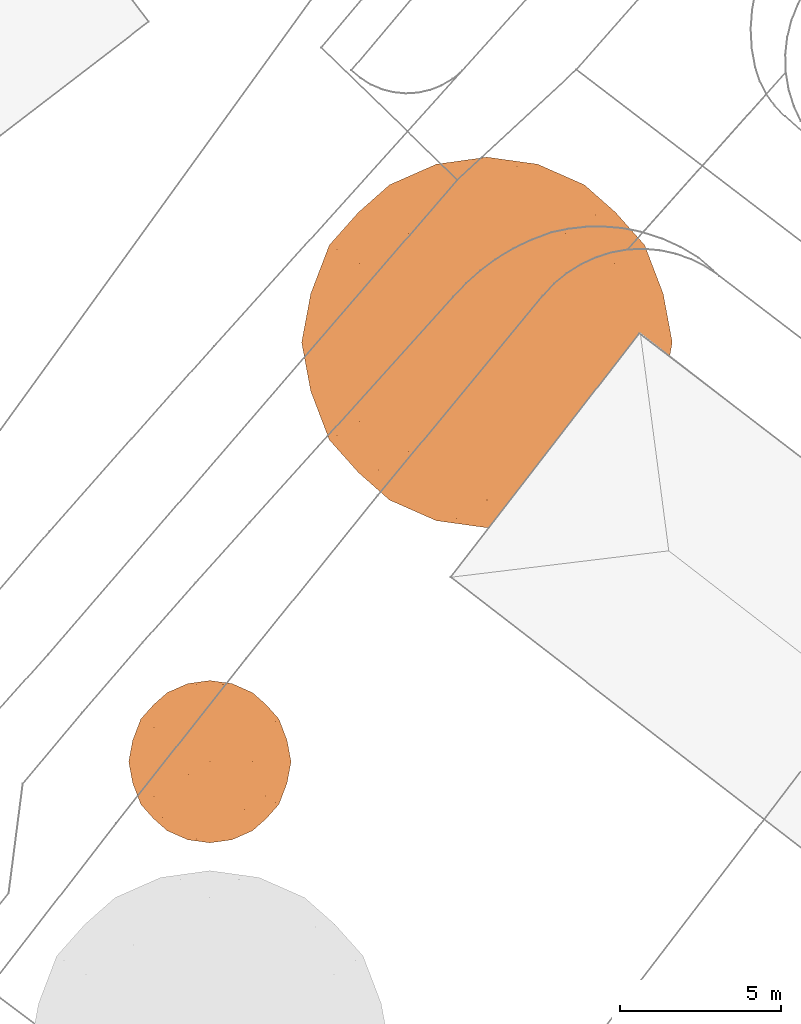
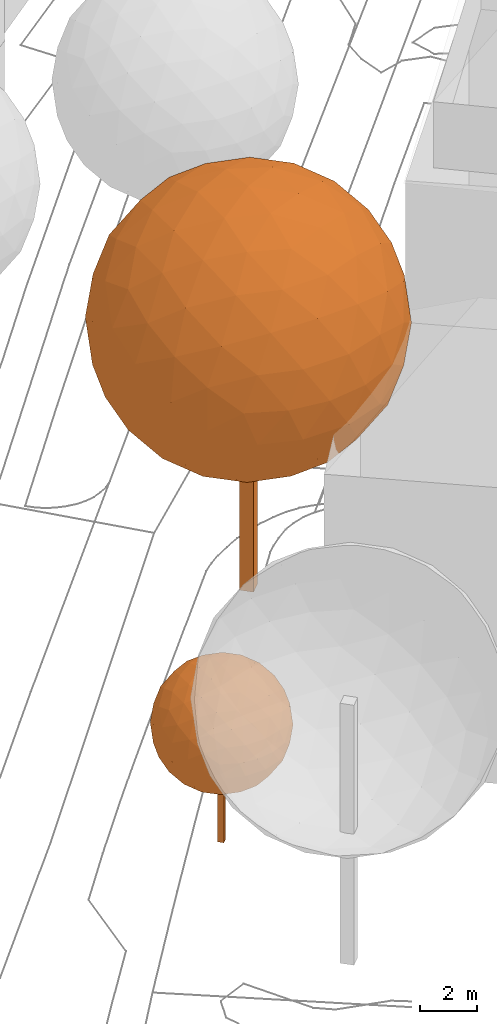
# Not in any storey, part 273 of 477: 2 geographic elements.
"""IFC4 model written with IfcOpenShell, lengths in metres."""

from ifc_helpers import new_model, si_unit, frame, origin_with_axes, place, context, subcontext, project, spatial, polygons, element, save


model = new_model("IFC4")

# Units and contexts
model_context = context("Model", 3, precision=1e-05, world=origin_with_axes())
body_context = subcontext(model_context, "Body", "Model", "MODEL_VIEW")
ifc_project = project(units=[si_unit("AREAUNIT", "SQUARE_METRE"), si_unit("LENGTHUNIT", "METRE")], contexts=[model_context])

# Sites
site_1_placement = place(None, origin_with_axes())
site_1 = spatial("IfcSite", under=ifc_project, at=site_1_placement, Name="Topoexport Site")
site_2_placement = place(site_1_placement, origin_with_axes())
site_2 = spatial("IfcSite", under=site_1, at=site_2_placement, Name="TPX_TREES")

# Geographic elements
geographic_element_1_placement = place(site_2_placement, frame((293.6777320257, 17.1707426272, 503.6368246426), z_axis=(0.0, 0.0, 1.0), x_axis=(1.0, 0.0, 0.0)))
element("IfcGeographicElement", 1, at=geographic_element_1_placement, inside=site_2, Name="Tree TR1 CD50", ObjectType="VEGETATION", PredefinedType="USERDEFINED", context=body_context, shape_type="Tessellation", body=[
    polygons([(0.0, -0.1608373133, 0.0), (-0.1608373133, 0.0, 0.0), (0.0, 0.1608373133, 0.0), (0.1608373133, 0.0, 0.0), (0.0, -0.1608373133, 5.0528532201), (-0.1608373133, 0.0, 5.0528532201), (0.0, 0.1608373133, 5.0528532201), (0.1608373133, 0.0, 5.0528532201)], [[[3, 4, 1]], [[1, 2, 3]], [[5, 8, 7]], [[7, 6, 5]], [[5, 6, 1]], [[1, 6, 2]], [[6, 7, 2]], [[2, 7, 3]], [[8, 5, 4]], [[4, 5, 1]], [[7, 8, 3]], [[3, 8, 4]]]),
    polygons([(-1.3282210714, 2.1491068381, 5.0528532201), (1.3282210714, 2.1491068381, 5.0528532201), (-1.3282210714, -2.1491068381, 5.0528532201), (1.3282210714, -2.1491068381, 5.0528532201), (0.0, -1.3282210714, 7.2019600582), (0.0, 1.3282210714, 7.2019600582), (0.0, -1.3282210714, 2.903746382), (0.0, 1.3282210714, 2.903746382), (2.1491068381, 0.0, 3.7246321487), (2.1491068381, 0.0, 6.3810742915), (-2.1491068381, 0.0, 3.7246321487), (-2.1491068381, 0.0, 6.3810742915), (0.0, 2.5264266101, 5.0528532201), (0.0, -2.5264266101, 5.0528532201), (-0.7807087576, -2.0439220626, 6.3160665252), (0.7807087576, -2.0439220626, 6.3160665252), (-0.7807087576, 2.0439220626, 6.3160665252), (0.7807087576, 2.0439220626, 6.3160665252), (0.0, 0.0, 7.5792798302), (-0.7807087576, -2.0439220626, 3.7896399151), (0.7807087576, -2.0439220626, 3.7896399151), (-0.7807087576, 2.0439220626, 3.7896399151), (0.7807087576, 2.0439220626, 3.7896399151), (0.0, 0.0, 2.5264266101), (2.0439220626, 1.263213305, 4.2721444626), (2.0439220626, -1.263213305, 4.2721444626), (1.263213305, -0.7807087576, 3.0089311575), (1.263213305, 0.7807087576, 3.0089311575), (2.0439220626, 1.263213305, 5.8335619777), (2.0439220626, -1.263213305, 5.8335619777), (1.263213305, -0.7807087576, 7.0967752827), (1.263213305, 0.7807087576, 7.0967752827), (2.5264266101, 0.0, 5.0528532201), (-2.0439220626, 1.263213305, 4.2721444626), (-2.0439220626, -1.263213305, 4.2721444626), (-1.263213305, -0.7807087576, 3.0089311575), (-1.263213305, 0.7807087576, 3.0089311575), (-2.0439220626, 1.263213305, 5.8335619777), (-2.0439220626, -1.263213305, 5.8335619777), (-1.263213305, -0.7807087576, 7.0967752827), (-1.263213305, 0.7807087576, 7.0967752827), (-2.5264266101, 0.0, 5.0528532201), (-0.6903878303, 2.4302666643, 5.0528532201), (0.6903878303, 2.4302666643, 5.0528532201), (-0.6903878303, -2.4302666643, 5.0528532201), (0.6903878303, -2.4302666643, 5.0528532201), (-1.0961876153, -2.1794686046, 5.7094510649), (-0.405799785, -1.7527854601, 6.8265220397), (-0.4104428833, -2.4027744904, 5.7169637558), (1.0961876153, -2.1794686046, 5.7094510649), (0.405799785, -1.7527854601, 6.8265220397), (0.4104428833, -2.4027744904, 5.7169637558), (0.0, -2.1491068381, 6.3810742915), (-1.0961876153, 2.1794686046, 5.7094510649), (-0.405799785, 1.7527854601, 6.8265220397), (-0.4104428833, 2.4027744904, 5.7169637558), (1.0961876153, 2.1794686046, 5.7094510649), (0.405799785, 1.7527854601, 6.8265220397), (0.4104428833, 2.4027744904, 5.7169637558), (0.0, 2.1491068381, 6.3810742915), (0.0, -0.6903878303, 7.4831198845), (0.0, 0.6903878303, 7.4831198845), (-1.0961876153, -2.1794686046, 4.3962553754), (-0.405799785, -1.7527854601, 3.2791844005), (-0.4104428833, -2.4027744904, 4.3887426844), (1.0961876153, -2.1794686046, 4.3962553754), (0.405799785, -1.7527854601, 3.2791844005), (0.4104428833, -2.4027744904, 4.3887426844), (0.0, -2.1491068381, 3.7246321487), (-1.0961876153, 2.1794686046, 4.3962553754), (-0.405799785, 1.7527854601, 3.2791844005), (-0.4104428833, 2.4027744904, 4.3887426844), (1.0961876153, 2.1794686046, 4.3962553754), (0.405799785, 1.7527854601, 3.2791844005), (0.4104428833, 2.4027744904, 4.3887426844), (0.0, 2.1491068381, 3.7246321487), (0.0, -0.6903878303, 2.6225865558), (0.0, 0.6903878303, 2.6225865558), (1.7527854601, 1.7736688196, 4.6470534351), (2.1794686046, 0.6565978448, 3.9566656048), (1.4849963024, 1.7386639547, 3.9782998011), (1.7527854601, -1.7736688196, 4.6470534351), (2.1794686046, -0.6565978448, 3.9566656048), (1.4849963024, -1.7386639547, 3.9782998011), (0.6565978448, -1.0961876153, 2.8733846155), (1.7736688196, -0.405799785, 3.3000677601), (1.074553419, -1.4849963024, 3.3141892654), (0.6641105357, -0.4104428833, 2.6500787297), (1.7386639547, -1.074553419, 3.5678569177), (0.6565978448, 1.0961876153, 2.8733846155), (1.7736688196, 0.405799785, 3.3000677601), (1.074553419, 1.4849963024, 3.3141892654), (0.6641105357, 0.4104428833, 2.6500787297), (1.7386639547, 1.074553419, 3.5678569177), (1.3282210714, 0.0, 2.903746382), (1.7527854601, 1.7736688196, 5.4586530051), (2.1794686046, 0.6565978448, 6.1490408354), (1.4849963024, 1.7386639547, 6.1274066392), (2.1491068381, 1.3282210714, 5.0528532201), (1.7527854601, -1.7736688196, 5.4586530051), (2.1794686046, -0.6565978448, 6.1490408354), (1.4849963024, -1.7386639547, 6.1274066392), (2.1491068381, -1.3282210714, 5.0528532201), (0.6565978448, -1.0961876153, 7.2323218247), (1.7736688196, -0.405799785, 6.8056386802), (1.074553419, -1.4849963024, 6.7915171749), (0.6641105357, -0.4104428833, 7.4556277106), (1.7386639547, -1.074553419, 6.5378495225), (0.6565978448, 1.0961876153, 7.2323218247), (1.7736688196, 0.405799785, 6.8056386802), (1.074553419, 1.4849963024, 6.7915171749), (0.6641105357, 0.4104428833, 7.4556277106), (1.7386639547, 1.074553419, 6.5378495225), (1.3282210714, 0.0, 7.2019600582), (2.4302666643, 0.0, 4.3624653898), (2.4302666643, 0.0, 5.7432410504), (2.4027744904, 0.6641105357, 4.6424103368), (2.4027744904, -0.6641105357, 4.6424103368), (2.4027744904, 0.6641105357, 5.4632961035), (2.4027744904, -0.6641105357, 5.4632961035), (-1.7527854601, 1.7736688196, 4.6470534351), (-2.1794686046, 0.6565978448, 3.9566656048), (-1.4849963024, 1.7386639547, 3.9782998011), (-1.7527854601, -1.7736688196, 4.6470534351), (-2.1794686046, -0.6565978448, 3.9566656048), (-1.4849963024, -1.7386639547, 3.9782998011), (-0.6565978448, -1.0961876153, 2.8733846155), (-1.7736688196, -0.405799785, 3.3000677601), (-1.074553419, -1.4849963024, 3.3141892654), (-0.6641105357, -0.4104428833, 2.6500787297), (-1.7386639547, -1.074553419, 3.5678569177), (-0.6565978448, 1.0961876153, 2.8733846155), (-1.7736688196, 0.405799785, 3.3000677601), (-1.074553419, 1.4849963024, 3.3141892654), (-0.6641105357, 0.4104428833, 2.6500787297), (-1.7386639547, 1.074553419, 3.5678569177), (-1.3282210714, 0.0, 2.903746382), (-1.7527854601, 1.7736688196, 5.4586530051), (-2.1794686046, 0.6565978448, 6.1490408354), (-1.4849963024, 1.7386639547, 6.1274066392), (-2.1491068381, 1.3282210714, 5.0528532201), (-1.7527854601, -1.7736688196, 5.4586530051), (-2.1794686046, -0.6565978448, 6.1490408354), (-1.4849963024, -1.7386639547, 6.1274066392), (-2.1491068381, -1.3282210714, 5.0528532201), (-0.6565978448, -1.0961876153, 7.2323218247), (-1.7736688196, -0.405799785, 6.8056386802), (-1.074553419, -1.4849963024, 6.7915171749), (-0.6641105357, -0.4104428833, 7.4556277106), (-1.7386639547, -1.074553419, 6.5378495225), (-0.6565978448, 1.0961876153, 7.2323218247), (-1.7736688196, 0.405799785, 6.8056386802), (-1.074553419, 1.4849963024, 6.7915171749), (-0.6641105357, 0.4104428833, 7.4556277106), (-1.7386639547, 1.074553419, 6.5378495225), (-1.3282210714, 0.0, 7.2019600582), (-2.4302666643, 0.0, 4.3624653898), (-2.4302666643, 0.0, 5.7432410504), (-2.4027744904, 0.6641105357, 4.6424103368), (-2.4027744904, -0.6641105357, 4.6424103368), (-2.4027744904, 0.6641105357, 5.4632961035), (-2.4027744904, -0.6641105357, 5.4632961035)], [[[1, 138, 54]], [[138, 38, 140]], [[54, 140, 17]], [[138, 140, 54]], [[38, 139, 155]], [[139, 12, 152]], [[155, 152, 41]], [[139, 152, 155]], [[17, 153, 55]], [[153, 41, 151]], [[55, 151, 6]], [[153, 151, 55]], [[38, 155, 140]], [[155, 41, 153]], [[140, 153, 17]], [[155, 153, 140]], [[1, 54, 43]], [[54, 17, 56]], [[43, 56, 13]], [[54, 56, 43]], [[17, 55, 60]], [[55, 6, 58]], [[60, 58, 18]], [[55, 58, 60]], [[13, 59, 44]], [[59, 18, 57]], [[44, 57, 2]], [[59, 57, 44]], [[17, 60, 56]], [[60, 18, 59]], [[56, 59, 13]], [[60, 59, 56]], [[1, 43, 70]], [[43, 13, 72]], [[70, 72, 22]], [[43, 72, 70]], [[13, 44, 75]], [[44, 2, 73]], [[75, 73, 23]], [[44, 73, 75]], [[22, 76, 71]], [[76, 23, 74]], [[71, 74, 8]], [[76, 74, 71]], [[13, 75, 72]], [[75, 23, 76]], [[72, 76, 22]], [[75, 76, 72]], [[1, 70, 121]], [[70, 22, 123]], [[121, 123, 34]], [[70, 123, 121]], [[22, 71, 134]], [[71, 8, 132]], [[134, 132, 37]], [[71, 132, 134]], [[34, 136, 122]], [[136, 37, 133]], [[122, 133, 11]], [[136, 133, 122]], [[22, 134, 123]], [[134, 37, 136]], [[123, 136, 34]], [[134, 136, 123]], [[1, 121, 138]], [[121, 34, 141]], [[138, 141, 38]], [[121, 141, 138]], [[34, 122, 159]], [[122, 11, 157]], [[159, 157, 42]], [[122, 157, 159]], [[38, 161, 139]], [[161, 42, 158]], [[139, 158, 12]], [[161, 158, 139]], [[34, 159, 141]], [[159, 42, 161]], [[141, 161, 38]], [[159, 161, 141]], [[2, 57, 96]], [[57, 18, 98]], [[96, 98, 29]], [[57, 98, 96]], [[18, 58, 111]], [[58, 6, 109]], [[111, 109, 32]], [[58, 109, 111]], [[29, 113, 97]], [[113, 32, 110]], [[97, 110, 10]], [[113, 110, 97]], [[18, 111, 98]], [[111, 32, 113]], [[98, 113, 29]], [[111, 113, 98]], [[6, 151, 62]], [[151, 41, 154]], [[62, 154, 19]], [[151, 154, 62]], [[41, 152, 156]], [[152, 12, 147]], [[156, 147, 40]], [[152, 147, 156]], [[19, 149, 61]], [[149, 40, 146]], [[61, 146, 5]], [[149, 146, 61]], [[41, 156, 154]], [[156, 40, 149]], [[154, 149, 19]], [[156, 149, 154]], [[12, 158, 143]], [[158, 42, 162]], [[143, 162, 39]], [[158, 162, 143]], [[42, 157, 160]], [[157, 11, 125]], [[160, 125, 35]], [[157, 125, 160]], [[39, 145, 142]], [[145, 35, 124]], [[142, 124, 3]], [[145, 124, 142]], [[42, 160, 162]], [[160, 35, 145]], [[162, 145, 39]], [[160, 145, 162]], [[11, 133, 128]], [[133, 37, 137]], [[128, 137, 36]], [[133, 137, 128]], [[37, 132, 135]], [[132, 8, 78]], [[135, 78, 24]], [[132, 78, 135]], [[36, 130, 127]], [[130, 24, 77]], [[127, 77, 7]], [[130, 77, 127]], [[37, 135, 137]], [[135, 24, 130]], [[137, 130, 36]], [[135, 130, 137]], [[8, 74, 90]], [[74, 23, 92]], [[90, 92, 28]], [[74, 92, 90]], [[23, 73, 81]], [[73, 2, 79]], [[81, 79, 25]], [[73, 79, 81]], [[28, 94, 91]], [[94, 25, 80]], [[91, 80, 9]], [[94, 80, 91]], [[23, 81, 92]], [[81, 25, 94]], [[92, 94, 28]], [[81, 94, 92]], [[4, 100, 50]], [[100, 30, 102]], [[50, 102, 16]], [[100, 102, 50]], [[30, 101, 108]], [[101, 10, 105]], [[108, 105, 31]], [[101, 105, 108]], [[16, 106, 51]], [[106, 31, 104]], [[51, 104, 5]], [[106, 104, 51]], [[30, 108, 102]], [[108, 31, 106]], [[102, 106, 16]], [[108, 106, 102]], [[4, 50, 46]], [[50, 16, 52]], [[46, 52, 14]], [[50, 52, 46]], [[16, 51, 53]], [[51, 5, 48]], [[53, 48, 15]], [[51, 48, 53]], [[14, 49, 45]], [[49, 15, 47]], [[45, 47, 3]], [[49, 47, 45]], [[16, 53, 52]], [[53, 15, 49]], [[52, 49, 14]], [[53, 49, 52]], [[4, 46, 66]], [[46, 14, 68]], [[66, 68, 21]], [[46, 68, 66]], [[14, 45, 65]], [[45, 3, 63]], [[65, 63, 20]], [[45, 63, 65]], [[21, 69, 67]], [[69, 20, 64]], [[67, 64, 7]], [[69, 64, 67]], [[14, 65, 68]], [[65, 20, 69]], [[68, 69, 21]], [[65, 69, 68]], [[4, 66, 82]], [[66, 21, 84]], [[82, 84, 26]], [[66, 84, 82]], [[21, 67, 87]], [[67, 7, 85]], [[87, 85, 27]], [[67, 85, 87]], [[26, 89, 83]], [[89, 27, 86]], [[83, 86, 9]], [[89, 86, 83]], [[21, 87, 84]], [[87, 27, 89]], [[84, 89, 26]], [[87, 89, 84]], [[4, 82, 100]], [[82, 26, 103]], [[100, 103, 30]], [[82, 103, 100]], [[26, 83, 118]], [[83, 9, 115]], [[118, 115, 33]], [[83, 115, 118]], [[30, 120, 101]], [[120, 33, 116]], [[101, 116, 10]], [[120, 116, 101]], [[26, 118, 103]], [[118, 33, 120]], [[103, 120, 30]], [[118, 120, 103]], [[5, 104, 61]], [[104, 31, 107]], [[61, 107, 19]], [[104, 107, 61]], [[31, 105, 114]], [[105, 10, 110]], [[114, 110, 32]], [[105, 110, 114]], [[19, 112, 62]], [[112, 32, 109]], [[62, 109, 6]], [[112, 109, 62]], [[31, 114, 107]], [[114, 32, 112]], [[107, 112, 19]], [[114, 112, 107]], [[3, 47, 142]], [[47, 15, 144]], [[142, 144, 39]], [[47, 144, 142]], [[15, 48, 148]], [[48, 5, 146]], [[148, 146, 40]], [[48, 146, 148]], [[39, 150, 143]], [[150, 40, 147]], [[143, 147, 12]], [[150, 147, 143]], [[15, 148, 144]], [[148, 40, 150]], [[144, 150, 39]], [[148, 150, 144]], [[7, 64, 127]], [[64, 20, 129]], [[127, 129, 36]], [[64, 129, 127]], [[20, 63, 126]], [[63, 3, 124]], [[126, 124, 35]], [[63, 124, 126]], [[36, 131, 128]], [[131, 35, 125]], [[128, 125, 11]], [[131, 125, 128]], [[20, 126, 129]], [[126, 35, 131]], [[129, 131, 36]], [[126, 131, 129]], [[9, 86, 91]], [[86, 27, 95]], [[91, 95, 28]], [[86, 95, 91]], [[27, 85, 88]], [[85, 7, 77]], [[88, 77, 24]], [[85, 77, 88]], [[28, 93, 90]], [[93, 24, 78]], [[90, 78, 8]], [[93, 78, 90]], [[27, 88, 95]], [[88, 24, 93]], [[95, 93, 28]], [[88, 93, 95]], [[10, 116, 97]], [[116, 33, 119]], [[97, 119, 29]], [[116, 119, 97]], [[33, 115, 117]], [[115, 9, 80]], [[117, 80, 25]], [[115, 80, 117]], [[29, 99, 96]], [[99, 25, 79]], [[96, 79, 2]], [[99, 79, 96]], [[33, 117, 119]], [[117, 25, 99]], [[119, 99, 29]], [[117, 99, 119]]]),
])
geographic_element_2_placement = place(site_2_placement, frame((302.3027320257, 30.2207422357, 503.6407084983), z_axis=(0.0, 0.0, 1.0), x_axis=(1.0, 0.0, 0.0)))
element("IfcGeographicElement", 2, at=geographic_element_2_placement, inside=site_2, Name="Tree TR3 CD115", ObjectType="VEGETATION", PredefinedType="USERDEFINED", context=body_context, shape_type="Tessellation", body=[
    polygons([(0.0, -0.3671980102, 0.0), (-0.3671980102, 0.0, 0.0), (0.0, 0.3671980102, 0.0), (0.3671980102, 0.0, 0.0), (0.0, -0.3671980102, 11.5358657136), (-0.3671980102, 0.0, 11.5358657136), (0.0, 0.3671980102, 11.5358657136), (0.3671980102, 0.0, 11.5358657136)], [[[3, 4, 1]], [[1, 2, 3]], [[5, 8, 7]], [[7, 6, 5]], [[5, 6, 1]], [[1, 6, 2]], [[6, 7, 2]], [[2, 7, 3]], [[8, 5, 4]], [[4, 5, 1]], [[7, 8, 3]], [[3, 8, 4]]]),
    polygons([(-3.0323817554, 4.9064967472, 11.5358657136), (3.0323817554, 4.9064967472, 11.5358657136), (-3.0323817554, -4.9064967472, 11.5358657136), (3.0323817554, -4.9064967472, 11.5358657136), (0.0, -3.0323817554, 16.4423624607), (0.0, 3.0323817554, 16.4423624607), (0.0, -3.0323817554, 6.6293689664), (0.0, 3.0323817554, 6.6293689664), (4.9064967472, 0.0, 8.5034839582), (4.9064967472, 0.0, 14.568247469), (-4.9064967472, 0.0, 8.5034839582), (-4.9064967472, 0.0, 14.568247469), (0.0, 5.7679328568, 11.5358657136), (0.0, -5.7679328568, 11.5358657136), (-1.7823892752, -4.6663557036, 14.419832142), (1.7823892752, -4.6663557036, 14.419832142), (-1.7823892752, 4.6663557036, 14.419832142), (1.7823892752, 4.6663557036, 14.419832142), (0.0, 0.0, 17.3037985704), (-1.7823892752, -4.6663557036, 8.6518992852), (1.7823892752, -4.6663557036, 8.6518992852), (-1.7823892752, 4.6663557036, 8.6518992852), (1.7823892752, 4.6663557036, 8.6518992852), (0.0, 0.0, 5.7679328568), (4.6663557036, 2.8839664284, 9.7534764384), (4.6663557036, -2.8839664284, 9.7534764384), (2.8839664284, -1.7823892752, 6.86951001), (2.8839664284, 1.7823892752, 6.86951001), (4.6663557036, 2.8839664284, 13.3182549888), (4.6663557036, -2.8839664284, 13.3182549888), (2.8839664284, -1.7823892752, 16.2022214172), (2.8839664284, 1.7823892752, 16.2022214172), (5.7679328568, 0.0, 11.5358657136), (-4.6663557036, 2.8839664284, 9.7534764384), (-4.6663557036, -2.8839664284, 9.7534764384), (-2.8839664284, -1.7823892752, 6.86951001), (-2.8839664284, 1.7823892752, 6.86951001), (-4.6663557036, 2.8839664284, 13.3182549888), (-4.6663557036, -2.8839664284, 13.3182549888), (-2.8839664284, -1.7823892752, 16.2022214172), (-2.8839664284, 1.7823892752, 16.2022214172), (-5.7679328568, 0.0, 11.5358657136), (-1.5761829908, 5.5483958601, 11.5358657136), (1.5761829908, 5.5483958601, 11.5358657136), (-1.5761829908, -5.5483958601, 11.5358657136), (1.5761829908, -5.5483958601, 11.5358657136), (-2.5026401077, -4.9758138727, 13.0349048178), (-0.9264571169, -4.0016792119, 15.5852224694), (-0.9370574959, -5.485630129, 13.0520565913), (2.5026401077, -4.9758138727, 13.0349048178), (0.9264571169, -4.0016792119, 15.5852224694), (0.9370574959, -5.485630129, 13.0520565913), (0.0, -4.9064967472, 14.568247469), (-2.5026401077, 4.9758138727, 13.0349048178), (-0.9264571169, 4.0016792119, 15.5852224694), (-0.9370574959, 5.485630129, 13.0520565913), (2.5026401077, 4.9758138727, 13.0349048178), (0.9264571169, 4.0016792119, 15.5852224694), (0.9370574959, 5.485630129, 13.0520565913), (0.0, 4.9064967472, 14.568247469), (0.0, -1.5761829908, 17.0842615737), (0.0, 1.5761829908, 17.0842615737), (-2.5026401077, -4.9758138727, 10.0368266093), (-0.9264571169, -4.0016792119, 7.4865089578), (-0.9370574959, -5.485630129, 10.0196748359), (2.5026401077, -4.9758138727, 10.0368266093), (0.9264571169, -4.0016792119, 7.4865089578), (0.9370574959, -5.485630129, 10.0196748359), (0.0, -4.9064967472, 8.5034839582), (-2.5026401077, 4.9758138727, 10.0368266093), (-0.9264571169, 4.0016792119, 7.4865089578), (-0.9370574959, 5.485630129, 10.0196748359), (2.5026401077, 4.9758138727, 10.0368266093), (0.9264571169, 4.0016792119, 7.4865089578), (0.9370574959, 5.485630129, 10.0196748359), (0.0, 4.9064967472, 8.5034839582), (0.0, -1.5761829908, 5.9874698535), (0.0, 1.5761829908, 5.9874698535), (4.0016792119, 4.0493567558, 10.6094085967), (4.9758138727, 1.4990391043, 9.0332256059), (3.3903058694, 3.9694392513, 9.08261734), (4.0016792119, -4.0493567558, 10.6094085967), (4.9758138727, -1.4990391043, 9.0332256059), (3.3903058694, -3.9694392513, 9.08261734), (1.4990391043, -2.5026401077, 6.5600518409), (4.0493567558, -0.9264571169, 7.5341865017), (2.4532483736, -3.3903058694, 7.5664264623), (1.5161908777, -0.9370574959, 6.0502355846), (3.9694392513, -2.4532483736, 8.1455598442), (1.4990391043, 2.5026401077, 6.5600518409), (4.0493567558, 0.9264571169, 7.5341865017), (2.4532483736, 3.3903058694, 7.5664264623), (1.5161908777, 0.9370574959, 6.0502355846), (3.9694392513, 2.4532483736, 8.1455598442), (3.0323817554, 0.0, 6.6293689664), (4.0016792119, 4.0493567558, 12.4623228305), (4.9758138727, 1.4990391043, 14.0385058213), (3.3903058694, 3.9694392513, 13.9891140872), (4.9064967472, 3.0323817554, 11.5358657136), (4.0016792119, -4.0493567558, 12.4623228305), (4.9758138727, -1.4990391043, 14.0385058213), (3.3903058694, -3.9694392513, 13.9891140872), (4.9064967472, -3.0323817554, 11.5358657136), (1.4990391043, -2.5026401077, 16.5116795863), (4.0493567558, -0.9264571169, 15.5375449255), (2.4532483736, -3.3903058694, 15.5053049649), (1.5161908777, -0.9370574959, 17.0214958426), (3.9694392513, -2.4532483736, 14.926171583), (1.4990391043, 2.5026401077, 16.5116795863), (4.0493567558, 0.9264571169, 15.5375449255), (2.4532483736, 3.3903058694, 15.5053049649), (1.5161908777, 0.9370574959, 17.0214958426), (3.9694392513, 2.4532483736, 14.926171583), (3.0323817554, 0.0, 16.4423624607), (5.5483958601, 0.0, 9.9596827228), (5.5483958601, 0.0, 13.1120487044), (5.485630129, 1.5161908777, 10.5988082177), (5.485630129, -1.5161908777, 10.5988082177), (5.485630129, 1.5161908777, 12.4729232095), (5.485630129, -1.5161908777, 12.4729232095), (-4.0016792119, 4.0493567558, 10.6094085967), (-4.9758138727, 1.4990391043, 9.0332256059), (-3.3903058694, 3.9694392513, 9.08261734), (-4.0016792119, -4.0493567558, 10.6094085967), (-4.9758138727, -1.4990391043, 9.0332256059), (-3.3903058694, -3.9694392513, 9.08261734), (-1.4990391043, -2.5026401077, 6.5600518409), (-4.0493567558, -0.9264571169, 7.5341865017), (-2.4532483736, -3.3903058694, 7.5664264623), (-1.5161908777, -0.9370574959, 6.0502355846), (-3.9694392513, -2.4532483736, 8.1455598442), (-1.4990391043, 2.5026401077, 6.5600518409), (-4.0493567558, 0.9264571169, 7.5341865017), (-2.4532483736, 3.3903058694, 7.5664264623), (-1.5161908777, 0.9370574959, 6.0502355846), (-3.9694392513, 2.4532483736, 8.1455598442), (-3.0323817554, 0.0, 6.6293689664), (-4.0016792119, 4.0493567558, 12.4623228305), (-4.9758138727, 1.4990391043, 14.0385058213), (-3.3903058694, 3.9694392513, 13.9891140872), (-4.9064967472, 3.0323817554, 11.5358657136), (-4.0016792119, -4.0493567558, 12.4623228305), (-4.9758138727, -1.4990391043, 14.0385058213), (-3.3903058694, -3.9694392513, 13.9891140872), (-4.9064967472, -3.0323817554, 11.5358657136), (-1.4990391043, -2.5026401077, 16.5116795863), (-4.0493567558, -0.9264571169, 15.5375449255), (-2.4532483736, -3.3903058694, 15.5053049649), (-1.5161908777, -0.9370574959, 17.0214958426), (-3.9694392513, -2.4532483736, 14.926171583), (-1.4990391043, 2.5026401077, 16.5116795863), (-4.0493567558, 0.9264571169, 15.5375449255), (-2.4532483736, 3.3903058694, 15.5053049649), (-1.5161908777, 0.9370574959, 17.0214958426), (-3.9694392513, 2.4532483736, 14.926171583), (-3.0323817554, 0.0, 16.4423624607), (-5.5483958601, 0.0, 9.9596827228), (-5.5483958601, 0.0, 13.1120487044), (-5.485630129, 1.5161908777, 10.5988082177), (-5.485630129, -1.5161908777, 10.5988082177), (-5.485630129, 1.5161908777, 12.4729232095), (-5.485630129, -1.5161908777, 12.4729232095)], [[[1, 138, 54]], [[138, 38, 140]], [[54, 140, 17]], [[138, 140, 54]], [[38, 139, 155]], [[139, 12, 152]], [[155, 152, 41]], [[139, 152, 155]], [[17, 153, 55]], [[153, 41, 151]], [[55, 151, 6]], [[153, 151, 55]], [[38, 155, 140]], [[155, 41, 153]], [[140, 153, 17]], [[155, 153, 140]], [[1, 54, 43]], [[54, 17, 56]], [[43, 56, 13]], [[54, 56, 43]], [[17, 55, 60]], [[55, 6, 58]], [[60, 58, 18]], [[55, 58, 60]], [[13, 59, 44]], [[59, 18, 57]], [[44, 57, 2]], [[59, 57, 44]], [[17, 60, 56]], [[60, 18, 59]], [[56, 59, 13]], [[60, 59, 56]], [[1, 43, 70]], [[43, 13, 72]], [[70, 72, 22]], [[43, 72, 70]], [[13, 44, 75]], [[44, 2, 73]], [[75, 73, 23]], [[44, 73, 75]], [[22, 76, 71]], [[76, 23, 74]], [[71, 74, 8]], [[76, 74, 71]], [[13, 75, 72]], [[75, 23, 76]], [[72, 76, 22]], [[75, 76, 72]], [[1, 70, 121]], [[70, 22, 123]], [[121, 123, 34]], [[70, 123, 121]], [[22, 71, 134]], [[71, 8, 132]], [[134, 132, 37]], [[71, 132, 134]], [[34, 136, 122]], [[136, 37, 133]], [[122, 133, 11]], [[136, 133, 122]], [[22, 134, 123]], [[134, 37, 136]], [[123, 136, 34]], [[134, 136, 123]], [[1, 121, 138]], [[121, 34, 141]], [[138, 141, 38]], [[121, 141, 138]], [[34, 122, 159]], [[122, 11, 157]], [[159, 157, 42]], [[122, 157, 159]], [[38, 161, 139]], [[161, 42, 158]], [[139, 158, 12]], [[161, 158, 139]], [[34, 159, 141]], [[159, 42, 161]], [[141, 161, 38]], [[159, 161, 141]], [[2, 57, 96]], [[57, 18, 98]], [[96, 98, 29]], [[57, 98, 96]], [[18, 58, 111]], [[58, 6, 109]], [[111, 109, 32]], [[58, 109, 111]], [[29, 113, 97]], [[113, 32, 110]], [[97, 110, 10]], [[113, 110, 97]], [[18, 111, 98]], [[111, 32, 113]], [[98, 113, 29]], [[111, 113, 98]], [[6, 151, 62]], [[151, 41, 154]], [[62, 154, 19]], [[151, 154, 62]], [[41, 152, 156]], [[152, 12, 147]], [[156, 147, 40]], [[152, 147, 156]], [[19, 149, 61]], [[149, 40, 146]], [[61, 146, 5]], [[149, 146, 61]], [[41, 156, 154]], [[156, 40, 149]], [[154, 149, 19]], [[156, 149, 154]], [[12, 158, 143]], [[158, 42, 162]], [[143, 162, 39]], [[158, 162, 143]], [[42, 157, 160]], [[157, 11, 125]], [[160, 125, 35]], [[157, 125, 160]], [[39, 145, 142]], [[145, 35, 124]], [[142, 124, 3]], [[145, 124, 142]], [[42, 160, 162]], [[160, 35, 145]], [[162, 145, 39]], [[160, 145, 162]], [[11, 133, 128]], [[133, 37, 137]], [[128, 137, 36]], [[133, 137, 128]], [[37, 132, 135]], [[132, 8, 78]], [[135, 78, 24]], [[132, 78, 135]], [[36, 130, 127]], [[130, 24, 77]], [[127, 77, 7]], [[130, 77, 127]], [[37, 135, 137]], [[135, 24, 130]], [[137, 130, 36]], [[135, 130, 137]], [[8, 74, 90]], [[74, 23, 92]], [[90, 92, 28]], [[74, 92, 90]], [[23, 73, 81]], [[73, 2, 79]], [[81, 79, 25]], [[73, 79, 81]], [[28, 94, 91]], [[94, 25, 80]], [[91, 80, 9]], [[94, 80, 91]], [[23, 81, 92]], [[81, 25, 94]], [[92, 94, 28]], [[81, 94, 92]], [[4, 100, 50]], [[100, 30, 102]], [[50, 102, 16]], [[100, 102, 50]], [[30, 101, 108]], [[101, 10, 105]], [[108, 105, 31]], [[101, 105, 108]], [[16, 106, 51]], [[106, 31, 104]], [[51, 104, 5]], [[106, 104, 51]], [[30, 108, 102]], [[108, 31, 106]], [[102, 106, 16]], [[108, 106, 102]], [[4, 50, 46]], [[50, 16, 52]], [[46, 52, 14]], [[50, 52, 46]], [[16, 51, 53]], [[51, 5, 48]], [[53, 48, 15]], [[51, 48, 53]], [[14, 49, 45]], [[49, 15, 47]], [[45, 47, 3]], [[49, 47, 45]], [[16, 53, 52]], [[53, 15, 49]], [[52, 49, 14]], [[53, 49, 52]], [[4, 46, 66]], [[46, 14, 68]], [[66, 68, 21]], [[46, 68, 66]], [[14, 45, 65]], [[45, 3, 63]], [[65, 63, 20]], [[45, 63, 65]], [[21, 69, 67]], [[69, 20, 64]], [[67, 64, 7]], [[69, 64, 67]], [[14, 65, 68]], [[65, 20, 69]], [[68, 69, 21]], [[65, 69, 68]], [[4, 66, 82]], [[66, 21, 84]], [[82, 84, 26]], [[66, 84, 82]], [[21, 67, 87]], [[67, 7, 85]], [[87, 85, 27]], [[67, 85, 87]], [[26, 89, 83]], [[89, 27, 86]], [[83, 86, 9]], [[89, 86, 83]], [[21, 87, 84]], [[87, 27, 89]], [[84, 89, 26]], [[87, 89, 84]], [[4, 82, 100]], [[82, 26, 103]], [[100, 103, 30]], [[82, 103, 100]], [[26, 83, 118]], [[83, 9, 115]], [[118, 115, 33]], [[83, 115, 118]], [[30, 120, 101]], [[120, 33, 116]], [[101, 116, 10]], [[120, 116, 101]], [[26, 118, 103]], [[118, 33, 120]], [[103, 120, 30]], [[118, 120, 103]], [[5, 104, 61]], [[104, 31, 107]], [[61, 107, 19]], [[104, 107, 61]], [[31, 105, 114]], [[105, 10, 110]], [[114, 110, 32]], [[105, 110, 114]], [[19, 112, 62]], [[112, 32, 109]], [[62, 109, 6]], [[112, 109, 62]], [[31, 114, 107]], [[114, 32, 112]], [[107, 112, 19]], [[114, 112, 107]], [[3, 47, 142]], [[47, 15, 144]], [[142, 144, 39]], [[47, 144, 142]], [[15, 48, 148]], [[48, 5, 146]], [[148, 146, 40]], [[48, 146, 148]], [[39, 150, 143]], [[150, 40, 147]], [[143, 147, 12]], [[150, 147, 143]], [[15, 148, 144]], [[148, 40, 150]], [[144, 150, 39]], [[148, 150, 144]], [[7, 64, 127]], [[64, 20, 129]], [[127, 129, 36]], [[64, 129, 127]], [[20, 63, 126]], [[63, 3, 124]], [[126, 124, 35]], [[63, 124, 126]], [[36, 131, 128]], [[131, 35, 125]], [[128, 125, 11]], [[131, 125, 128]], [[20, 126, 129]], [[126, 35, 131]], [[129, 131, 36]], [[126, 131, 129]], [[9, 86, 91]], [[86, 27, 95]], [[91, 95, 28]], [[86, 95, 91]], [[27, 85, 88]], [[85, 7, 77]], [[88, 77, 24]], [[85, 77, 88]], [[28, 93, 90]], [[93, 24, 78]], [[90, 78, 8]], [[93, 78, 90]], [[27, 88, 95]], [[88, 24, 93]], [[95, 93, 28]], [[88, 93, 95]], [[10, 116, 97]], [[116, 33, 119]], [[97, 119, 29]], [[116, 119, 97]], [[33, 115, 117]], [[115, 9, 80]], [[117, 80, 25]], [[115, 80, 117]], [[29, 99, 96]], [[99, 25, 79]], [[96, 79, 2]], [[99, 79, 96]], [[33, 117, 119]], [[117, 25, 99]], [[119, 99, 29]], [[117, 99, 119]]]),
])

save(model, "model.ifc")
